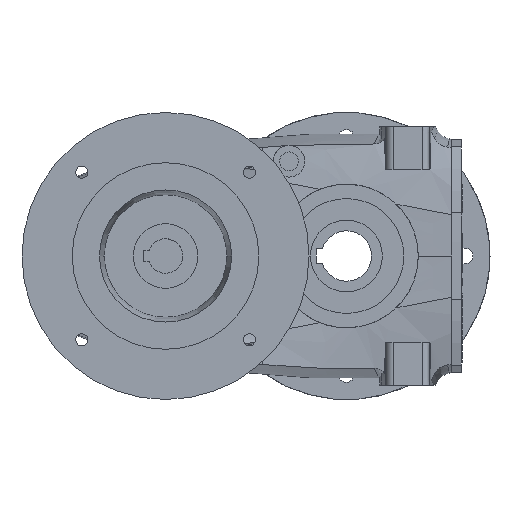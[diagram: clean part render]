
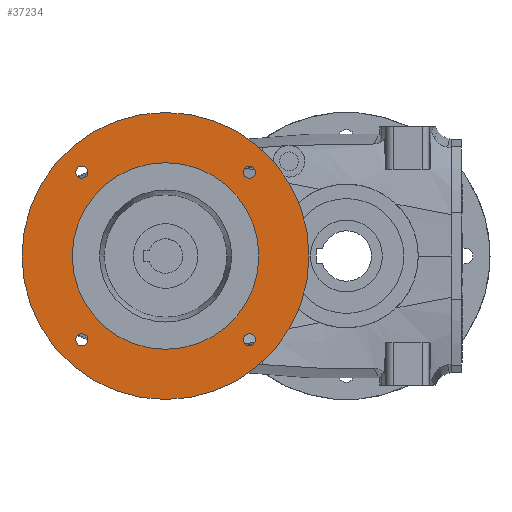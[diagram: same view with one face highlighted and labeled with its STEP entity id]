
A CAD part, left-side view. The second image highlights one B-rep face of the part: STEP entity #37234.
In plain terms, the highlighted planar face has unit normal (-1, 0, 0).
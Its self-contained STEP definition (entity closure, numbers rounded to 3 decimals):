
#36401=CARTESIAN_POINT('',(-146.5,101.5,0.));
#36402=DIRECTION('',(1.,0.,0.));
#36403=DIRECTION('',(0.,0.,1.));
#36404=AXIS2_PLACEMENT_3D('',#36401,#36402,#36403);
#36409=CARTESIAN_POINT('',(-146.5,101.5,0.));
#36410=DIRECTION('',(1.,0.,0.));
#36411=DIRECTION('',(0.,0.,-1.));
#36412=AXIS2_PLACEMENT_3D('',#36409,#36410,#36411);
#36417=CARTESIAN_POINT('',(-146.5,43.164,-58.336));
#36418=DIRECTION('',(-1.,0.,0.));
#36419=DIRECTION('',(0.,1.,0.));
#36420=AXIS2_PLACEMENT_3D('',#36417,#36418,#36419);
#36425=CARTESIAN_POINT('',(-146.5,43.164,-58.336));
#36426=DIRECTION('',(-1.,0.,0.));
#36427=DIRECTION('',(0.,-1.,0.));
#36428=AXIS2_PLACEMENT_3D('',#36425,#36426,#36427);
#36433=CARTESIAN_POINT('',(-146.5,43.164,58.336));
#36434=DIRECTION('',(-1.,0.,0.));
#36435=DIRECTION('',(0.,1.,0.));
#36436=AXIS2_PLACEMENT_3D('',#36433,#36434,#36435);
#36441=CARTESIAN_POINT('',(-146.5,43.164,58.336));
#36442=DIRECTION('',(-1.,0.,0.));
#36443=DIRECTION('',(0.,-1.,0.));
#36444=AXIS2_PLACEMENT_3D('',#36441,#36442,#36443);
#36449=CARTESIAN_POINT('',(-146.5,159.836,58.336));
#36450=DIRECTION('',(-1.,0.,0.));
#36451=DIRECTION('',(0.,1.,0.));
#36452=AXIS2_PLACEMENT_3D('',#36449,#36450,#36451);
#36457=CARTESIAN_POINT('',(-146.5,159.836,58.336));
#36458=DIRECTION('',(-1.,0.,0.));
#36459=DIRECTION('',(0.,-1.,0.));
#36460=AXIS2_PLACEMENT_3D('',#36457,#36458,#36459);
#36465=CARTESIAN_POINT('',(-146.5,159.836,-58.336));
#36466=DIRECTION('',(-1.,0.,0.));
#36467=DIRECTION('',(0.,1.,0.));
#36468=AXIS2_PLACEMENT_3D('',#36465,#36466,#36467);
#36473=CARTESIAN_POINT('',(-146.5,159.836,-58.336));
#36474=DIRECTION('',(-1.,0.,0.));
#36475=DIRECTION('',(0.,-1.,0.));
#36476=AXIS2_PLACEMENT_3D('',#36473,#36474,#36475);
#36481=CARTESIAN_POINT('',(-146.5,101.5,0.));
#36482=DIRECTION('',(-1.,0.,0.));
#36483=DIRECTION('',(0.,0.,1.));
#36484=AXIS2_PLACEMENT_3D('',#36481,#36482,#36483);
#36489=CARTESIAN_POINT('',(-146.5,101.5,0.));
#36490=DIRECTION('',(-1.,0.,0.));
#36491=DIRECTION('',(0.,0.,-1.));
#36492=AXIS2_PLACEMENT_3D('',#36489,#36490,#36491);
#36951=CARTESIAN_POINT('',(-146.5,47.414,-58.336));
#36952=CARTESIAN_POINT('',(-146.5,38.914,-58.336));
#36953=VERTEX_POINT('',#36951);
#36954=VERTEX_POINT('',#36952);
#36955=CARTESIAN_POINT('',(-146.5,101.5,99.986));
#36956=CARTESIAN_POINT('',(-146.5,101.5,-99.986));
#36957=VERTEX_POINT('',#36955);
#36958=VERTEX_POINT('',#36956);
#36959=CARTESIAN_POINT('',(-146.5,47.414,58.336));
#36960=CARTESIAN_POINT('',(-146.5,38.914,58.336));
#36961=VERTEX_POINT('',#36959);
#36962=VERTEX_POINT('',#36960);
#36963=CARTESIAN_POINT('',(-146.5,164.086,58.336));
#36964=CARTESIAN_POINT('',(-146.5,155.586,58.336));
#36965=VERTEX_POINT('',#36963);
#36966=VERTEX_POINT('',#36964);
#36967=CARTESIAN_POINT('',(-146.5,164.086,-58.336));
#36968=CARTESIAN_POINT('',(-146.5,155.586,-58.336));
#36969=VERTEX_POINT('',#36967);
#36970=VERTEX_POINT('',#36968);
#36971=CARTESIAN_POINT('',(-146.5,101.5,65.));
#36972=CARTESIAN_POINT('',(-146.5,101.5,-65.));
#36973=VERTEX_POINT('',#36971);
#36974=VERTEX_POINT('',#36972);
#37195=CARTESIAN_POINT('',(-146.5,101.5,0.));
#37196=DIRECTION('',(1.,0.,0.));
#37197=DIRECTION('',(0.,0.,-1.));
#37198=AXIS2_PLACEMENT_3D('',#37195,#37196,#37197);
#37199=PLANE('',#37198);
#37200=ORIENTED_EDGE('',*,*,#37188,.T.);
#37201=ORIENTED_EDGE('',*,*,#37175,.T.);
#37202=EDGE_LOOP('',(#37200,#37201));
#37203=FACE_OUTER_BOUND('',#37202,.F.);
#37205=ORIENTED_EDGE('',*,*,#37204,.T.);
#37207=ORIENTED_EDGE('',*,*,#37206,.T.);
#37208=EDGE_LOOP('',(#37205,#37207));
#37209=FACE_BOUND('',#37208,.F.);
#37211=ORIENTED_EDGE('',*,*,#37210,.T.);
#37213=ORIENTED_EDGE('',*,*,#37212,.T.);
#37214=EDGE_LOOP('',(#37211,#37213));
#37215=FACE_BOUND('',#37214,.F.);
#37217=ORIENTED_EDGE('',*,*,#37216,.T.);
#37219=ORIENTED_EDGE('',*,*,#37218,.T.);
#37220=EDGE_LOOP('',(#37217,#37219));
#37221=FACE_BOUND('',#37220,.F.);
#37223=ORIENTED_EDGE('',*,*,#37222,.T.);
#37225=ORIENTED_EDGE('',*,*,#37224,.T.);
#37226=EDGE_LOOP('',(#37223,#37225));
#37227=FACE_BOUND('',#37226,.F.);
#37229=ORIENTED_EDGE('',*,*,#37228,.T.);
#37231=ORIENTED_EDGE('',*,*,#37230,.T.);
#37232=EDGE_LOOP('',(#37229,#37231));
#37233=FACE_BOUND('',#37232,.F.);
#37234=ADVANCED_FACE('',(#37203,#37209,#37215,#37221,#37227,#37233),#37199,.F.);
#36405=CIRCLE('',#36404,99.986);
#36413=CIRCLE('',#36412,99.986);
#36421=CIRCLE('',#36420,4.25);
#36429=CIRCLE('',#36428,4.25);
#36437=CIRCLE('',#36436,4.25);
#36445=CIRCLE('',#36444,4.25);
#36453=CIRCLE('',#36452,4.25);
#36461=CIRCLE('',#36460,4.25);
#36469=CIRCLE('',#36468,4.25);
#36477=CIRCLE('',#36476,4.25);
#36485=CIRCLE('',#36484,65.);
#36493=CIRCLE('',#36492,65.);
#37175=EDGE_CURVE('',#36958,#36957,#36413,.T.);
#37188=EDGE_CURVE('',#36957,#36958,#36405,.T.);
#37204=EDGE_CURVE('',#36953,#36954,#36421,.T.);
#37206=EDGE_CURVE('',#36954,#36953,#36429,.T.);
#37210=EDGE_CURVE('',#36961,#36962,#36437,.T.);
#37212=EDGE_CURVE('',#36962,#36961,#36445,.T.);
#37216=EDGE_CURVE('',#36965,#36966,#36453,.T.);
#37218=EDGE_CURVE('',#36966,#36965,#36461,.T.);
#37222=EDGE_CURVE('',#36969,#36970,#36469,.T.);
#37224=EDGE_CURVE('',#36970,#36969,#36477,.T.);
#37228=EDGE_CURVE('',#36973,#36974,#36485,.T.);
#37230=EDGE_CURVE('',#36974,#36973,#36493,.T.);
